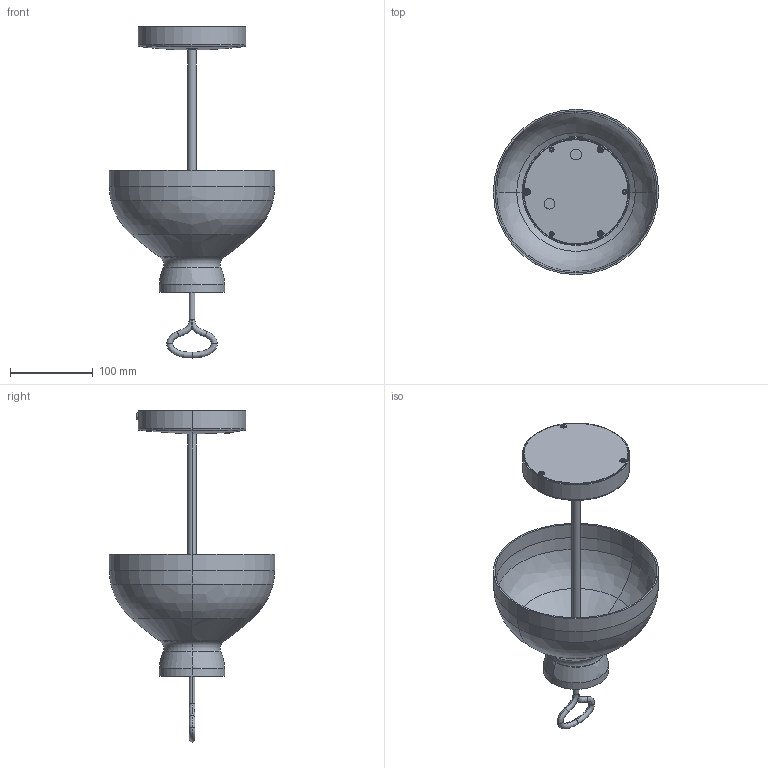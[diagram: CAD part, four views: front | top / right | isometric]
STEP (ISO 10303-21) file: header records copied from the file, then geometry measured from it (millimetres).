
FILE_DESCRIPTION((''),'2;1');
FILE_NAME('TAR330_ASM','2024-05-30T11:45:22',('adriano.sorzio'),(''),'CREO PARAMETRIC BY PTC INC, 2020354','CREO PARAMETRIC BY PTC INC, 2020354','');
FILE_SCHEMA(('CONFIG_CONTROL_DESIGN','SHAPE_APPEARANCE_LAYERS_GROUPS'));
Length unit declared in the file: millimetre
Products named in the file (26): 01178; 01178A; 01178SD_ASM; 01179; CONNETTORE-WIFI; 01270; 01269; M3X5-ISO14581; 01270C_ASM; 01180; SCHEDA-WIFI; M3X8-UNI9327; 01204; M3X8-ISO14581; 01268; 01182; 01183; 01185; 01184; M3X4-ISO14581; 01183C_ASM; 01186; 01188; 01187; AESSE0000172091; TAR330_ASM
Assembly tree (32 placements, depth 3):
  TAR330_ASM
    01178SD_ASM
      01178
      01178A  x2
    01179
    CONNETTORE-WIFI
    01270C_ASM
      01270
      01269
      M3X5-ISO14581
    01180
    SCHEDA-WIFI
    M3X8-UNI9327  x3
    01204
    M3X8-ISO14581  x3
    01268
    01182
    01183C_ASM
      01183
      01185
      01184
      M3X4-ISO14581  x3
    01186
    01188
    01187
    AESSE0000172091
Bounding box: 200 x 200 x 402 mm (x, y, z)
Volume: 382429.9 mm3; surface area: 371110.7 mm2
Topology: 29 solids, 57 shells, 844 faces, 2001 edges, 1270 vertices
Faces by surface type: plane 345, cylinder 315, cone 110, torus 36, bspline 34, sphere 4
Entity records: 23194 total; most frequent: CARTESIAN_POINT 6067, DIRECTION 3602, ORIENTED_EDGE 2972, EDGE_CURVE 1525, AXIS2_PLACEMENT_3D 1411, VERTEX_POINT 966, EDGE_LOOP 788, VECTOR 780
